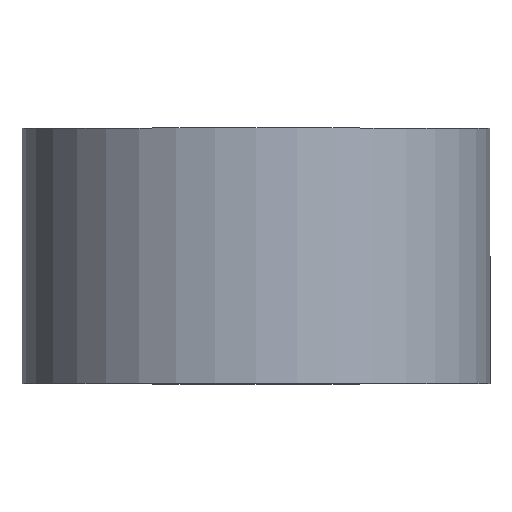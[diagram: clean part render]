
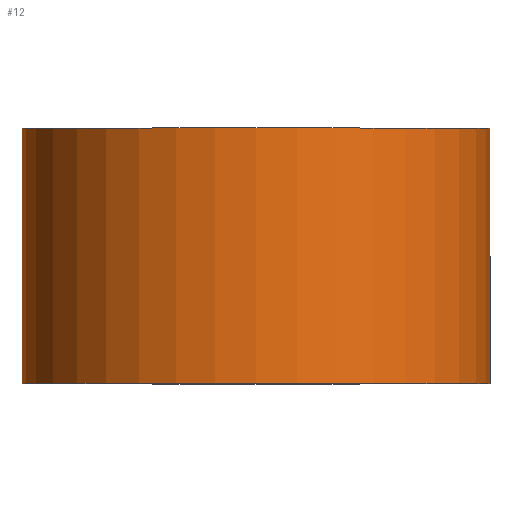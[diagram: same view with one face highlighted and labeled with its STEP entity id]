
A CAD part, top view. The second image highlights one B-rep face of the part: STEP entity #12.
In plain terms, the highlighted cylindrical face has radius 27.5 mm (diameter 55 mm), a partial arc.
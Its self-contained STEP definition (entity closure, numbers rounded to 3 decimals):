
#7 = LINE ( 'NONE', #88, #264 ) ;
#10 = AXIS2_PLACEMENT_3D ( 'NONE', #45, #132, #26 ) ;
#12 = ADVANCED_FACE ( 'NONE', ( #146 ), #162, .T. ) ;
#26 = DIRECTION ( 'NONE',  ( -1., 0., 0. ) ) ;
#31 = CARTESIAN_POINT ( 'NONE',  ( -27.5, 0., 0. ) ) ;
#37 = VERTEX_POINT ( 'NONE', #236 ) ;
#45 = CARTESIAN_POINT ( 'NONE',  ( 0., 0., 0. ) ) ;
#54 = VECTOR ( 'NONE', #83, 1000. ) ;
#58 = VERTEX_POINT ( 'NONE', #216 ) ;
#67 = DIRECTION ( 'NONE',  ( 0., 1., 0. ) ) ;
#71 = EDGE_CURVE ( 'NONE', #173, #58, #7, .T. ) ;
#82 = AXIS2_PLACEMENT_3D ( 'NONE', #183, #67, #133 ) ;
#83 = DIRECTION ( 'NONE',  ( 0., 1., 0. ) ) ;
#88 = CARTESIAN_POINT ( 'NONE',  ( 27.5, 0., 0. ) ) ;
#105 = CIRCLE ( 'NONE', #82, 27.5 ) ;
#110 = CARTESIAN_POINT ( 'NONE',  ( -27.5, 0., 0. ) ) ;
#112 = ORIENTED_EDGE ( 'NONE', *, *, #71, .T. ) ;
#119 = ORIENTED_EDGE ( 'NONE', *, *, #222, .T. ) ;
#132 = DIRECTION ( 'NONE',  ( 0., 1., 0. ) ) ;
#133 = DIRECTION ( 'NONE',  ( -1., 0., 0. ) ) ;
#134 = AXIS2_PLACEMENT_3D ( 'NONE', #159, #259, #208 ) ;
#139 = EDGE_CURVE ( 'NONE', #37, #58, #105, .T. ) ;
#146 = FACE_OUTER_BOUND ( 'NONE', #174, .T. ) ;
#159 = CARTESIAN_POINT ( 'NONE',  ( 0., 0., 0. ) ) ;
#162 = CYLINDRICAL_SURFACE ( 'NONE', #10, 27.5 ) ;
#173 = VERTEX_POINT ( 'NONE', #178 ) ;
#174 = EDGE_LOOP ( 'NONE', ( #119, #112, #288, #194 ) ) ;
#178 = CARTESIAN_POINT ( 'NONE',  ( 27.5, 0., 0. ) ) ;
#183 = CARTESIAN_POINT ( 'NONE',  ( 0., 30., 0. ) ) ;
#194 = ORIENTED_EDGE ( 'NONE', *, *, #203, .F. ) ;
#203 = EDGE_CURVE ( 'NONE', #242, #37, #249, .T. ) ;
#208 = DIRECTION ( 'NONE',  ( -1., 0., 0. ) ) ;
#216 = CARTESIAN_POINT ( 'NONE',  ( 27.5, 30., 0. ) ) ;
#222 = EDGE_CURVE ( 'NONE', #242, #173, #289, .T. ) ;
#234 = DIRECTION ( 'NONE',  ( 0., 1., 0. ) ) ;
#236 = CARTESIAN_POINT ( 'NONE',  ( -27.5, 30., 0. ) ) ;
#242 = VERTEX_POINT ( 'NONE', #31 ) ;
#249 = LINE ( 'NONE', #110, #54 ) ;
#259 = DIRECTION ( 'NONE',  ( 0., 1., 0. ) ) ;
#264 = VECTOR ( 'NONE', #234, 1000. ) ;
#288 = ORIENTED_EDGE ( 'NONE', *, *, #139, .F. ) ;
#289 = CIRCLE ( 'NONE', #134, 27.5 ) ;
